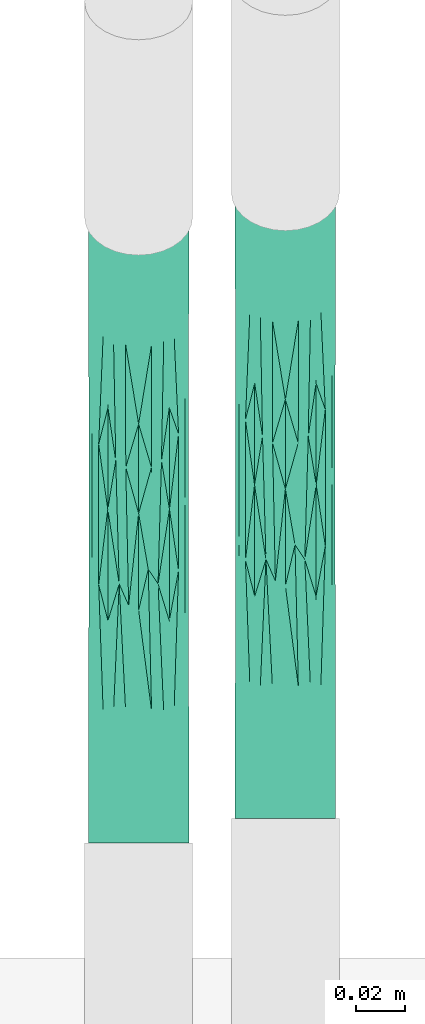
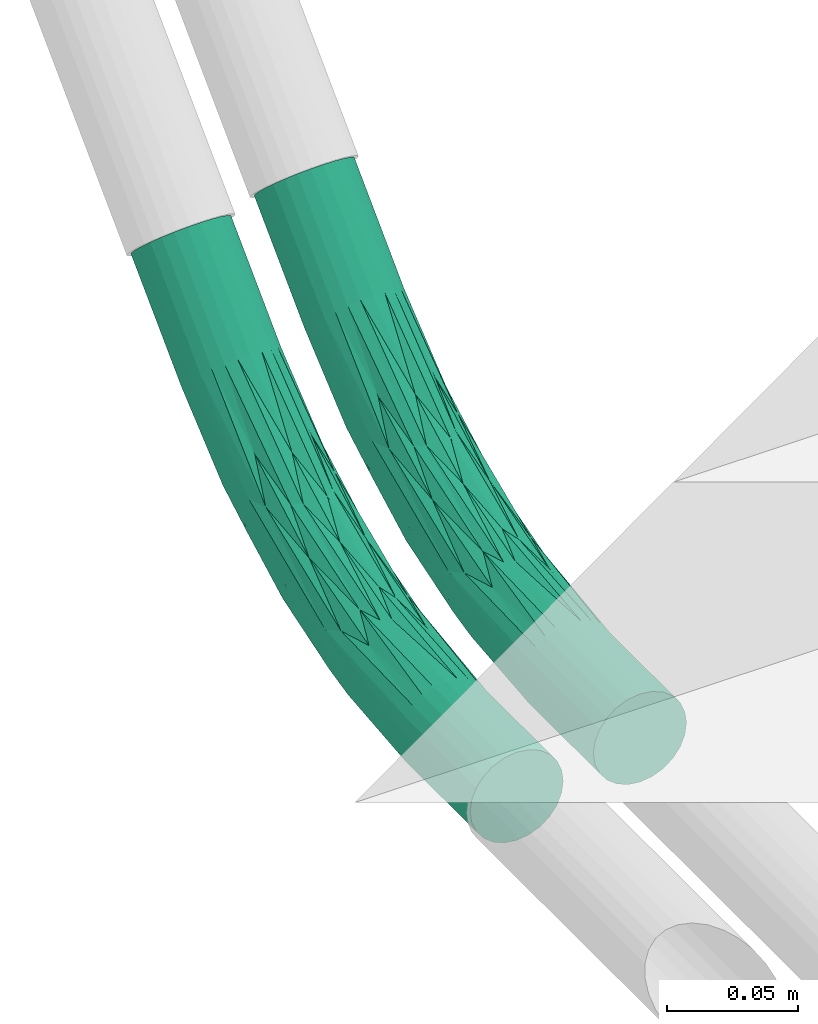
# One storey, part 17 of 18: 2 cable carrier fittings.
"""IFC4 building model written with IfcOpenShell, lengths in centimetres."""

from ifc_helpers import new_model, entity, si_unit, converted_unit, derived_unit, direction, frame, origin, place, context, subcontext, project, spatial, polygons, source, transform, mapped, material, type_object, type_shapes, element, save


model = new_model("IFC4")

# Units and contexts
model_context = context("Model", 3, precision=0.001, world=origin(), true_north=direction((6.123233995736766e-17, 1.0)))
body_context = subcontext(model_context, "Body", "Model", "MODEL_VIEW")
ifc_project = project(units=[si_unit("LENGTHUNIT", "METRE", prefix="CENTI"), si_unit("AREAUNIT", "SQUARE_METRE"), converted_unit("PLANEANGLEUNIT", "DEGREE", entity("IfcPlaneAngleMeasure", 0.017453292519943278), si_unit("PLANEANGLEUNIT", "RADIAN"), dimensions=[0, 0, 0, 0, 0, 0, 0]), si_unit("VOLUMEUNIT", "CUBIC_METRE"), derived_unit("THERMALTRANSMITTANCEUNIT", [(si_unit("MASSUNIT", "GRAM", prefix="KILO"), 1), (si_unit("THERMODYNAMICTEMPERATUREUNIT", "KELVIN"), -1), (si_unit("TIMEUNIT", "SECOND"), -3)])], contexts=[model_context])

# Site, building, storey
site_placement = place(None, frame((-0.003347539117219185, 0.0, 0.0)))
site = spatial("IfcSite", under=ifc_project, at=site_placement, Name="Default", CompositionType="ELEMENT")
building_placement = place(site_placement, origin())
building = spatial("IfcBuilding", under=site, at=building_placement, CompositionType="ELEMENT")
storey_placement = place(building_placement, frame((0.0, 0.0, -30.0)))
storey = spatial("IfcBuildingStorey", under=building, at=storey_placement, Name="Fondation B.O.", CompositionType="ELEMENT", Elevation=-30.0)

# Cable carrier fittings
ifc_material = material(Name="<Unnamed>")
cable_carrier_fitting_type_1 = type_object("IfcCableCarrierFittingType", Name="Courbure de conduit en plastique rigide - Sans raccords:Raccord TPC BT", PredefinedType="NOTDEFINED", material=ifc_material)
shared_shape_1 = source(origin(), body_context, "Body", "Tessellation", [
    polygons([(-14.986537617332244, -2.0500000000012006, -1.936944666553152e-13), (-14.986537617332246, -1.9801479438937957, 0.5305790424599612), (-14.98653761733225, -1.7753520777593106, 1.0249999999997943), (-14.986537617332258, -1.4495689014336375, 1.4495689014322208), (-14.986537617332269, -1.0250000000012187, 1.7753520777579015), (-14.986537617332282, -0.5305790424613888, 1.9801479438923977), (-14.986537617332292, -1.2225922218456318e-12, 2.0499999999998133), (-14.986537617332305, 0.5305790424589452, 1.980147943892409), (-14.986537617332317, 1.0249999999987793, 1.7753520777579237), (-14.986537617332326, 1.449568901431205, 1.4495689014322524), (-14.986537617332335, 1.7753520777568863, 1.0249999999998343), (-14.98653761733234, 1.980147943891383, 0.5305790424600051), (-14.986537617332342, 2.0499999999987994, -1.7382326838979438e-13), (-14.98653761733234, 1.9801479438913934, -0.5305790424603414), (-14.986537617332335, 1.775352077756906, -1.0250000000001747), (-14.986537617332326, 1.4495689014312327, -1.449568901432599), (-14.986537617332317, 1.0249999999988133, -1.7753520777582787), (-14.986537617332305, 0.530579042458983, -1.980147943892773), (-14.986537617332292, -1.1851726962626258e-12, -2.0500000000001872), (-14.986537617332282, -0.5305790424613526, -1.9801479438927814), (-14.986537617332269, -1.0250000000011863, -1.7753520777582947), (-14.986537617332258, -1.449568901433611, -1.4495689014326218), (-14.98653761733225, -1.775352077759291, -1.0250000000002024), (-14.986537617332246, -1.980147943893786, -0.5305790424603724), (-9.59553761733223, -2.050000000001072, -1.936944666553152e-13), (-9.59553761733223, -1.9801479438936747, 0.5305790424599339), (-9.59553761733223, -1.775352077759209, 1.0249999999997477), (-9.595537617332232, -1.4495689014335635, 1.4495689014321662), (-9.595537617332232, -1.0250000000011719, 1.7753520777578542), (-9.595537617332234, -0.5305790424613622, 1.9801479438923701), (-9.595537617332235, -1.203268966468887e-12, 2.0499999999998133), (-9.595537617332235, 0.53057904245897, 1.980147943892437), (-9.595537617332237, 1.0249999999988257, 1.7753520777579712), (-9.595537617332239, 1.449568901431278, 1.4495689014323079), (-9.595537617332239, 1.7753520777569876, 1.0249999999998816), (-9.595537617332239, 1.9801479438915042, 0.5305790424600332), (-9.595537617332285, 2.0499999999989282, -1.610779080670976e-13), (-9.595537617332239, 1.9801479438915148, -0.5305790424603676), (-9.595537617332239, 1.7753520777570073, -1.0250000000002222), (-9.595537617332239, 1.4495689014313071, -1.449568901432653), (-9.595537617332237, 1.0249999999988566, -1.7753520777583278), (-9.595537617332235, 0.5305790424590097, -1.9801479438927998), (-9.595537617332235, -1.1640286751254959e-12, -2.0500000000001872), (-9.595537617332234, -0.5305790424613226, -1.9801479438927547), (-9.595537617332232, -1.0250000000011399, -1.7753520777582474), (-9.595537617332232, -1.4495689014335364, -1.4495689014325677), (-9.59553761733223, -1.7753520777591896, -1.0250000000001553), (-9.59553761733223, -1.9801479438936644, -0.5305790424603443), (5.335330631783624, 8.2347488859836, -1.7564403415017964e-13), (2.1355999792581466, 5.608700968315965, -1.7564403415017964e-13), (-1.514975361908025, 3.657367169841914, -1.7564403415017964e-13), (-5.476098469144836, 2.4557400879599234, -1.7564403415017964e-13), (-4.67620737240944, -1.5654754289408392, -1.9278408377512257e-13), (0.0540658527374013, -0.13052270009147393, -1.9278408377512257e-13), (4.41349077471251, 2.199710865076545, -1.9278408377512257e-13), (8.234528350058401, 5.335670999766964, -1.9278408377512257e-13), (8.185134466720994, 5.385062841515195, 0.5305790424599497), (8.040318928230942, 5.529872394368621, 1.0249999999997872), (7.809950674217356, 5.760231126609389, 1.4495689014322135), (7.509728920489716, 6.060440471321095, 1.7753520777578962), (7.160113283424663, 6.410041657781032, 1.9801479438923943), (6.7849294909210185, 6.785209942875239, 2.049999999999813), (6.40974569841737, 7.16037822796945, 1.980147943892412), (6.0601300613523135, 7.509979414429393, 1.7753520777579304), (5.759908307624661, 7.810188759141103, 1.449568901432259), (5.529540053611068, 8.040547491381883, 1.0249999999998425), (5.3847245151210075, 8.185357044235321, 0.5305790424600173), (-0.10371504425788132, 0.25038294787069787, 1.2330488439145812), (-0.4238068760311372, 1.0231304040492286, 1.886911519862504), (-0.8261433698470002, 1.9944282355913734, 2.034694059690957), (-1.3489004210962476, 3.2564385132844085, 1.2613196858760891), (-3.414750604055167, 2.9032369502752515, 0.5255514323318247), (-2.339145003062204, -0.8887273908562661, 0.602602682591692), (-3.426581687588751, -0.4655054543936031, 1.619037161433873), (1.503781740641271, 3.718103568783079, 1.898448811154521), (-3.59169656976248, 0.5024922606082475, 2.0308839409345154), (2.864167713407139, 2.1601702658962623, 1.6191910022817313), (-3.8519500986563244, 2.004392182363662, 1.6333953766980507), (3.4450776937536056, 1.761427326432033, 0.7738466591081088), (2.4215721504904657, 3.0354327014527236, 2.030957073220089), (1.3193652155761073, 4.903197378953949, 0.79414032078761), (1.8206017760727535, 4.44628593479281, 1.6326750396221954), (-4.414213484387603, 1.3826818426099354, 1.8978916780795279), (2.295717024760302, 0.9688995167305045, 0.37331027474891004), (-5.237361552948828, -1.2454931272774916, 1.2412667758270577), (-5.234577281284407, -1.4605538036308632, 0.8962206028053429), (4.584012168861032, 2.8227719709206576, 1.2412667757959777), (-5.412151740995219, -0.4239301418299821, 1.890825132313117), (4.126660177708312, 3.5272906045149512, 1.8908251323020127), (-5.624231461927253, 0.6067003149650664, 2.033470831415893), (3.5478392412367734, 4.406007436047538, 2.0334708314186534), (-5.905254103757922, 1.9402784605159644, 1.253825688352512), (-3.582910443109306, 2.6891211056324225, 0.9345526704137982), (2.803546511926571, 5.547687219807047, 1.2538256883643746), (1.9965837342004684, 5.46748335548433, 0.4082981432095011), (5.384724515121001, 8.185357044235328, -0.5305790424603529), (5.529540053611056, 8.040547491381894, -1.0250000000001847), (5.759908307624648, 7.81018875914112, -1.4495689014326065), (6.060130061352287, 7.50997941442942, -1.775352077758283), (6.4097456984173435, 7.160378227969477, -1.9801479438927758), (6.784929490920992, 6.785209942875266, -2.0500000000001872), (7.160113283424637, 6.410041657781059, -1.9801479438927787), (7.509728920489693, 6.0604404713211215, -1.7753520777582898), (7.809950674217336, 5.760231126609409, -1.4495689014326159), (8.040318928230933, 5.529872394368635, -1.025000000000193), (8.18513446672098, 5.385062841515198, -0.5305790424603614), (-0.2472811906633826, 0.5969721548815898, -1.6150657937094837), (-0.6212504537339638, 1.4997874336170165, -2.0300421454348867), (-1.0245089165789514, 2.473311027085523, -1.9005499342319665), (-1.3489004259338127, 3.256438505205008, -1.2613196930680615), (-3.414750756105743, 2.9032369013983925, -0.5255514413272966), (-1.1719998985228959, -0.4424136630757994, -0.7691617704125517), (2.9785027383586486, 1.7904933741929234, -1.238342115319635), (2.4819518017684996, 2.4710457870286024, -1.8893602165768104), (1.8771259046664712, 3.3356416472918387, -2.033961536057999), (2.2936574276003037, 0.9803988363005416, -0.4289769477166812), (1.3063351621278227, 4.141086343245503, -1.6333953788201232), (-3.6844912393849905, -0.9185419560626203, -1.2388357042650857), (-3.6989481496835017, -0.05822916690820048, -1.8895126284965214), (-4.023174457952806, 0.9446686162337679, -2.0338760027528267), (-4.331181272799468, 1.8809161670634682, -1.6327993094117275), (1.3193652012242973, 4.90319736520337, -0.7941403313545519), (-2.3079634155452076, -0.9388644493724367, -0.36940739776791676), (3.46198577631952, 1.8088517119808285, -0.8473969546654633), (-5.337478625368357, -1.5793512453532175, -0.6535069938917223), (-5.317205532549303, -0.8768137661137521, -1.621320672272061), (4.379768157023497, 3.1399216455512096, -1.6213206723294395), (-5.516563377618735, 0.08212995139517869, -2.0314037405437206), (3.8426429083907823, 3.958953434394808, -2.031403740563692), (-5.728809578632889, 1.1138381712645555, -1.8968851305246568), (3.263177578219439, 4.838550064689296, -1.8968851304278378), (-5.9052541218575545, 1.9402784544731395, -1.2538256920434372), (-3.582910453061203, 2.6891210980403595, -0.9345526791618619), (2.8035465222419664, 5.547687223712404, -1.2538256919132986), (0.6936257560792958, 4.6827994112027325, -0.3939951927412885), (12.046462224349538, 9.147762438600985, -1.9278408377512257e-13), (11.99706834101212, 9.197154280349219, -0.5305790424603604), (11.852252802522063, 9.341963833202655, -1.0250000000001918), (11.621884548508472, 9.572322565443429, -1.449568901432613), (11.321662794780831, 9.87253191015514, -1.7753520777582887), (10.972047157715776, 10.222133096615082, -1.9801479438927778), (10.59686336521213, 10.59730138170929, -2.0500000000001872), (10.221679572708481, 10.972469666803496, -1.9801479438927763), (9.872063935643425, 11.32207085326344, -1.7753520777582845), (9.571842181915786, 11.622280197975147, -1.4495689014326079), (9.341473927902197, 11.852638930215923, -1.0250000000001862), (9.196658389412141, 11.997448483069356, -0.530579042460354), (9.147264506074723, 12.046840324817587, -1.6289867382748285e-13), (9.196658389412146, 11.99744848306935, 0.5305790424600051), (9.341473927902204, 11.852638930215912, 1.0249999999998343), (9.5718421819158, 11.622280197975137, 1.4495689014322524), (9.87206393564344, 11.32207085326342, 1.7753520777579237), (10.221679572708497, 10.972469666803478, 1.980147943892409), (10.596863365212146, 10.59730138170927, 2.0499999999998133), (10.972047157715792, 10.222133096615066, 1.9801479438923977), (11.321662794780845, 9.872531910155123, 1.7753520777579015), (11.621884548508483, 9.572322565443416, 1.4495689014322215), (11.852252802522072, 9.341963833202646, 1.0249999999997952), (11.997068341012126, 9.197154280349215, 0.5305790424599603)], [[[19, 20, 21, 22, 23, 24, 1, 2, 3, 4, 5, 6, 7, 8, 9, 10, 11, 12, 13, 14, 15, 16, 17, 18]], [[2, 1, 25, 26]], [[27, 3, 2, 26]], [[5, 4, 28, 29]], [[27, 28, 4, 3]], [[6, 5, 29, 30]], [[30, 31, 7, 6]], [[9, 8, 32, 33]], [[34, 10, 9, 33]], [[12, 11, 35, 36]], [[34, 35, 11, 10]], [[13, 12, 36, 37]], [[32, 8, 7, 31]], [[14, 13, 37, 38]], [[39, 15, 14, 38]], [[17, 16, 40, 41]], [[39, 40, 16, 15]], [[18, 17, 41, 42]], [[42, 43, 19, 18]], [[21, 20, 44, 45]], [[46, 22, 21, 45]], [[24, 23, 47, 48]], [[46, 47, 23, 22]], [[1, 24, 48, 25]], [[44, 20, 19, 43]], [[60, 61, 89]], [[26, 53, 73]], [[62, 63, 91]], [[85, 28, 27]], [[53, 26, 25]], [[31, 30, 76]], [[29, 88, 30]], [[74, 69, 88]], [[93, 36, 35]], [[90, 32, 31]], [[70, 90, 76]], [[65, 66, 94]], [[75, 78, 83]], [[78, 34, 33]], [[54, 55, 84]], [[35, 34, 92]], [[85, 74, 28]], [[92, 93, 35]], [[71, 92, 78]], [[68, 85, 86]], [[72, 52, 36]], [[52, 72, 51]], [[29, 28, 74]], [[52, 37, 36]], [[26, 73, 86]], [[64, 65, 82]], [[70, 75, 83]], [[68, 87, 77]], [[73, 53, 54]], [[81, 66, 67]], [[60, 77, 59]], [[78, 75, 82]], [[73, 54, 84]], [[70, 76, 80]], [[79, 84, 57]], [[80, 61, 62]], [[94, 81, 71]], [[73, 79, 68]], [[69, 80, 76]], [[74, 77, 69]], [[93, 81, 72]], [[55, 56, 57]], [[82, 65, 94]], [[80, 62, 91]], [[69, 89, 80]], [[51, 72, 95]], [[58, 59, 87]], [[50, 95, 49]], [[88, 76, 30]], [[72, 81, 95]], [[82, 75, 64]], [[71, 78, 82]], [[68, 77, 74]], [[81, 67, 95]], [[83, 33, 32]], [[75, 70, 91]], [[75, 63, 64]], [[77, 60, 89]], [[79, 58, 87]], [[57, 58, 79]], [[83, 32, 90]], [[78, 33, 83]], [[57, 84, 55]], [[73, 84, 79]], [[86, 85, 27]], [[74, 85, 68]], [[26, 86, 27]], [[68, 86, 73]], [[77, 87, 59]], [[79, 87, 68]], [[74, 88, 29]], [[76, 88, 69]], [[80, 89, 61]], [[77, 89, 69]], [[76, 90, 31]], [[83, 90, 70]], [[75, 91, 63]], [[80, 91, 70]], [[78, 92, 34]], [[93, 92, 71]], [[81, 93, 71]], [[93, 72, 36]], [[81, 94, 66]], [[82, 94, 71]], [[49, 95, 67]], [[95, 50, 51]], [[130, 42, 41]], [[113, 118, 107]], [[44, 43, 128]], [[107, 119, 114]], [[41, 40, 121]], [[119, 44, 128]], [[37, 52, 38]], [[51, 50, 135]], [[52, 111, 38]], [[100, 101, 115]], [[39, 132, 40]], [[133, 110, 132]], [[126, 118, 46]], [[43, 42, 120]], [[112, 123, 125]], [[109, 121, 117]], [[53, 25, 48]], [[133, 122, 110]], [[53, 123, 54]], [[134, 122, 97]], [[126, 46, 45]], [[108, 120, 115]], [[111, 133, 38]], [[53, 125, 123]], [[44, 119, 45]], [[118, 112, 125]], [[121, 40, 132]], [[108, 114, 119]], [[111, 52, 51]], [[120, 42, 130]], [[50, 49, 96]], [[113, 104, 105]], [[135, 122, 111]], [[96, 122, 135]], [[102, 103, 114]], [[110, 117, 121]], [[117, 110, 134]], [[98, 99, 117]], [[99, 100, 131]], [[112, 113, 124]], [[106, 55, 116]], [[98, 134, 97]], [[131, 117, 99]], [[131, 115, 109]], [[108, 129, 114]], [[129, 115, 101]], [[113, 107, 127]], [[103, 104, 127]], [[107, 126, 119]], [[101, 102, 129]], [[123, 116, 54]], [[118, 113, 112]], [[56, 55, 106]], [[124, 106, 116]], [[112, 124, 116]], [[54, 116, 55]], [[127, 114, 103]], [[109, 115, 120]], [[108, 128, 120]], [[97, 122, 96]], [[109, 130, 121]], [[47, 46, 118]], [[125, 53, 48]], [[116, 123, 112]], [[113, 105, 124]], [[106, 124, 105]], [[48, 47, 125]], [[118, 125, 47]], [[119, 126, 45]], [[118, 126, 107]], [[113, 127, 104]], [[114, 127, 107]], [[120, 128, 43]], [[119, 128, 108]], [[114, 129, 102]], [[115, 129, 108]], [[121, 130, 41]], [[120, 130, 109]], [[115, 131, 100]], [[117, 131, 109]], [[39, 38, 133]], [[121, 132, 110]], [[39, 133, 132]], [[122, 133, 111]], [[117, 134, 98]], [[122, 134, 110]], [[51, 135, 111]], [[96, 135, 50]], [[143, 144, 145, 146, 147, 148, 149, 150, 151, 152, 153, 154, 155, 156, 157, 158, 159, 136, 137, 138, 139, 140, 141, 142]], [[57, 56, 136, 159]], [[158, 58, 57, 159]], [[60, 59, 157, 156]], [[158, 157, 59, 58]], [[61, 60, 156, 155]], [[155, 154, 62, 61]], [[64, 63, 153, 152]], [[151, 65, 64, 152]], [[67, 66, 150, 149]], [[151, 150, 66, 65]], [[49, 67, 149, 148]], [[153, 63, 62, 154]], [[49, 148, 147, 96]], [[146, 97, 96, 147]], [[144, 143, 100, 99]], [[145, 144, 99, 98]], [[98, 97, 146, 145]], [[143, 142, 101, 100]], [[103, 102, 141, 140]], [[139, 104, 103, 140]], [[106, 105, 138, 137]], [[139, 138, 105, 104]], [[56, 106, 137, 136]], [[141, 102, 101, 142]]], closed=True),
])
type_shapes(cable_carrier_fitting_type_1, [shared_shape_1])
cable_carrier_fitting_1_placement = place(storey_placement, frame((-5729.099445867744, -2618.1904316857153, -41.00309498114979), z_axis=(-1.0, 0.0, 0.0), x_axis=(0.0, -0.7071067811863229, -0.7071067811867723)))
element("IfcCableCarrierFitting", 1, at=cable_carrier_fitting_1_placement, inside=storey, type_object=cable_carrier_fitting_type_1, material=ifc_material, Name="Courbure de conduit en plastique rigide - Sans raccords:Raccord TPC BT", ObjectType="Courbure de conduit en plastique rigide - Sans raccords:Raccord TPC BT", PredefinedType="NOTDEFINED", context=body_context, shape_type="MappedRepresentation", body=[
    mapped(shared_shape_1, transform((0.0, 0.0, 0.0), scale=1.0)),
])
cable_carrier_fitting_type_2 = type_object("IfcCableCarrierFittingType", Name="Courbure de conduit en plastique rigide - Sans raccords:Raccord TPC BT", PredefinedType="NOTDEFINED", material=ifc_material)
shared_shape_2 = source(origin(), body_context, "Body", "Tessellation", [
    polygons([(-14.986531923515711, -2.0500000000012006, -1.936944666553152e-13), (-14.986531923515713, -1.9801479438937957, 0.5305790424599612), (-14.986531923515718, -1.7753520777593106, 1.0249999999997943), (-14.986531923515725, -1.4495689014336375, 1.4495689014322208), (-14.986531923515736, -1.0250000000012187, 1.7753520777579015), (-14.986531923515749, -0.5305790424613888, 1.9801479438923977), (-14.98653192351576, -1.222592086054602e-12, 2.0499999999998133), (-14.986531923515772, 0.5305790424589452, 1.980147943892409), (-14.986531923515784, 1.0249999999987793, 1.7753520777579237), (-14.986531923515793, 1.449568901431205, 1.4495689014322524), (-14.986531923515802, 1.7753520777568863, 1.0249999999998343), (-14.986531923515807, 1.980147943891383, 0.5305790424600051), (-14.986531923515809, 2.0499999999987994, -1.7382326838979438e-13), (-14.986531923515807, 1.9801479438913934, -0.5305790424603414), (-14.986531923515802, 1.775352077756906, -1.0250000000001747), (-14.986531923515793, 1.4495689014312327, -1.449568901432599), (-14.986531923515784, 1.0249999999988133, -1.7753520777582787), (-14.986531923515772, 0.530579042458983, -1.980147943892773), (-14.98653192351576, -1.1851725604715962e-12, -2.0500000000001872), (-14.986531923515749, -0.5305790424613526, -1.9801479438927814), (-14.986531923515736, -1.0250000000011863, -1.7753520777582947), (-14.986531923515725, -1.449568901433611, -1.4495689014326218), (-14.986531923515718, -1.775352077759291, -1.0250000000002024), (-14.986531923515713, -1.980147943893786, -0.5305790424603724), (-9.595531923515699, -2.050000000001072, -1.936944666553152e-13), (-9.595531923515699, -1.9801479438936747, 0.5305790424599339), (-9.595531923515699, -1.775352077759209, 1.0249999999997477), (-9.5955319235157, -1.4495689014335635, 1.4495689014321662), (-9.5955319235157, -1.0250000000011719, 1.7753520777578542), (-9.595531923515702, -0.5305790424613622, 1.9801479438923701), (-9.595531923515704, -1.2032688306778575e-12, 2.0499999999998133), (-9.595531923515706, 0.53057904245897, 1.980147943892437), (-9.595531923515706, 1.0249999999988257, 1.7753520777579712), (-9.595531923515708, 1.449568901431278, 1.4495689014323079), (-9.595531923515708, 1.7753520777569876, 1.0249999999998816), (-9.595531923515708, 1.9801479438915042, 0.5305790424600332), (-9.595531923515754, 2.0499999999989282, -1.5925714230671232e-13), (-9.595531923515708, 1.9801479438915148, -0.5305790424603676), (-9.595531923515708, 1.7753520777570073, -1.0250000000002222), (-9.595531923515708, 1.4495689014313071, -1.449568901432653), (-9.595531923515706, 1.0249999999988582, -1.775352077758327), (-9.595531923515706, 0.5305790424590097, -1.9801479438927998), (-9.595531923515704, -1.1640285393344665e-12, -2.0500000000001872), (-9.595531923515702, -0.5305790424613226, -1.9801479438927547), (-9.5955319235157, -1.0250000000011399, -1.7753520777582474), (-9.5955319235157, -1.4495689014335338, -1.4495689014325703), (-9.595531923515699, -1.7753520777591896, -1.0250000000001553), (-9.595531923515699, -1.9801479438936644, -0.5305790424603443), (5.335330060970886, 8.234742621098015, -1.7564403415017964e-13), (2.1356001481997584, 5.608697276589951, -1.7564403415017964e-13), (-1.5149737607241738, 3.6573654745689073, -1.7564403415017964e-13), (-5.476094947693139, 2.455739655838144, -1.7564403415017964e-13), (-4.676204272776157, -1.5654759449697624, -1.9278408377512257e-13), (0.054066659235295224, -0.13052472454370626, -1.9278408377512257e-13), (4.413489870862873, 2.1997064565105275, -1.9278408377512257e-13), (8.234526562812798, 5.33566351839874, -1.9278408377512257e-13), (8.18513270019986, 5.38505538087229, 0.530579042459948), (8.04031722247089, 5.529864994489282, 1.0249999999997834), (7.80994906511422, 5.760223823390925, 1.4495689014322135), (7.509727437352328, 6.060433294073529, 1.7753520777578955), (7.160111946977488, 6.410034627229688, 1.980147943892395), (6.784928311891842, 6.785203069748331, 2.049999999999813), (6.409744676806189, 7.1603715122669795, 1.98014794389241), (6.060129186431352, 7.509972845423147, 1.7753520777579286), (5.759907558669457, 7.810182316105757, 1.4495689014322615), (5.529539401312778, 8.040541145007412, 1.0249999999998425), (5.384723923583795, 8.185350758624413, 0.5305790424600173), (-0.10371416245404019, 0.2503809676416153, 1.2330488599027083), (-0.4238058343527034, 1.0231284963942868, 1.8869115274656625), (-0.8261421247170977, 1.994426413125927, 2.034694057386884), (-1.3488989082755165, 3.2564367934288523, 1.2613196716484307), (-3.4147481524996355, 2.9032360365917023, 0.5255511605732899), (-2.339143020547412, -0.8887286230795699, 0.6026023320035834), (-3.4265776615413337, -0.4655058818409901, 1.6190371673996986), (1.5037806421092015, 3.7180997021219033, 1.8984488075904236), (-3.591692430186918, 0.5024918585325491, 2.03088394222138), (2.8641684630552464, 2.1601673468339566, 1.6191910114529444), (-3.8519457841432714, 2.0043918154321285, 1.633395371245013), (3.4450766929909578, 1.7614232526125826, 0.7738466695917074), (2.421573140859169, 3.0354299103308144, 2.0309570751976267), (1.319364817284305, 4.903193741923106, 0.7941403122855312), (1.820599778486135, 4.446281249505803, 1.632675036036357), (-4.414207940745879, 1.3826818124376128, 1.8978916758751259), (2.295716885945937, 0.9688963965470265, 0.3733102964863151), (-5.237358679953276, -1.24549362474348, 1.2412667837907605), (-5.23457131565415, -1.4605537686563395, 0.8962205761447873), (4.58401167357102, 2.822767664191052, 1.241266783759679), (-5.412148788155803, -0.4239306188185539, 1.890825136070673), (4.126659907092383, 3.527286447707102, 1.8908251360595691), (-5.624228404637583, 0.6066998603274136, 2.033470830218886), (3.547839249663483, 4.406003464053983, 2.033470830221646), (-5.905250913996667, 1.9402780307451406, 1.2538256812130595), (-3.5829081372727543, 2.6891201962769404, 0.9345525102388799), (2.80354688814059, 5.547683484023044, 1.2538256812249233), (1.99658219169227, 5.467478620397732, 0.40829812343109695), (5.384723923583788, 8.18535075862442, -0.5305790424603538), (5.529539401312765, 8.04054114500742, -1.0250000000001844), (5.75990755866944, 7.810182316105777, -1.4495689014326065), (6.060129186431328, 7.50997284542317, -1.775352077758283), (6.409744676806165, 7.1603715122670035, -1.9801479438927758), (6.784928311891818, 6.785203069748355, -2.0500000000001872), (7.160111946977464, 6.410034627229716, -1.9801479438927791), (7.509727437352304, 6.060433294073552, -1.7753520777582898), (7.8099490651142, 5.760223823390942, -1.4495689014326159), (8.040317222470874, 5.529864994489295, -1.025000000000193), (8.185132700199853, 5.385055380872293, -0.5305790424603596), (-0.2472802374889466, 0.5969702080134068, -1.6150658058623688), (-0.6212493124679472, 1.4997855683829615, -2.030042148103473), (-1.0245075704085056, 2.473309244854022, -1.9005499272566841), (-1.348898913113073, 3.2564367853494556, -1.2613196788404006), (-3.4147483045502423, 2.903235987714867, -0.5255511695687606), (-1.1719947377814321, -0.44241384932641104, -0.769161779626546), (2.9785009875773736, 1.7904890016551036, -1.2383421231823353), (2.481950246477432, 2.471041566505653, -1.889360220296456), (1.8771246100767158, 3.335637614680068, -2.0339615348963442), (2.2936572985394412, 0.9803956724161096, -0.42897676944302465), (1.306334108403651, 4.141082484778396, -1.6333953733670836), (-3.6844857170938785, -0.9185419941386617, -1.2388357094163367), (-3.6989467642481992, -0.0582302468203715, -1.889512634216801), (-4.023172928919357, 0.9446675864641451, -2.0338760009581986), (-4.331179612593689, 1.8809151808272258, -1.6327993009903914), (1.3193648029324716, 4.903193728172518, -0.794140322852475), (-2.3079615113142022, -0.9388655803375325, -0.36940747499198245), (3.4619937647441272, 1.8088530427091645, -0.8473968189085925), (-5.337474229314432, -1.57935138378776, -0.6535072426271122), (-5.3172026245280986, -0.8768142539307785, -1.6213206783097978), (4.379767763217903, 3.1399174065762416, -1.6213206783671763), (-5.5165603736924, 0.08212948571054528, -2.0314037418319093), (3.842642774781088, 3.9589493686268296, -2.0314037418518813), (-5.728806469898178, 1.1138377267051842, -1.8968851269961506), (3.26317772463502, 4.8385461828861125, -1.8968851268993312), (-5.905250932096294, 1.9402780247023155, -1.253825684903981), (-3.5829081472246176, 2.689120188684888, -0.9345525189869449), (2.8035468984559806, 5.547683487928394, -1.253825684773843), (0.6936286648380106, 4.682797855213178, -0.39399521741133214), (12.04646203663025, 9.14775335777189, -1.9278408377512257e-13), (11.997068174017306, 9.197145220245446, -0.5305790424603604), (11.852252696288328, 9.341954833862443, -1.0250000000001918), (11.621884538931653, 9.57231366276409, -1.449568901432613), (11.321662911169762, 9.872523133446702, -1.7753520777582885), (10.972047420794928, 10.222124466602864, -1.9801479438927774), (10.596863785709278, 10.597292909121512, -2.0500000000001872), (10.221680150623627, 10.972461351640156, -1.9801479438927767), (9.87206466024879, 11.32206268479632, -1.7753520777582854), (9.571843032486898, 11.622272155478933, -1.4495689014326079), (9.341474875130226, 11.852630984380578, -1.0250000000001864), (9.196659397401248, 11.997440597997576, -0.5305790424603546), (9.147265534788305, 12.046832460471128, -1.6289867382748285e-13), (9.196659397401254, 11.997440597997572, 0.5305790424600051), (9.341474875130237, 11.852630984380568, 1.0249999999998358), (9.571843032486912, 11.62227215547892, 1.4495689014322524), (9.872064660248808, 11.322062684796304, 1.7753520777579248), (10.221680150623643, 10.972461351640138, 1.980147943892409), (10.596863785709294, 10.597292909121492, 2.0499999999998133), (10.972047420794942, 10.22212446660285, 1.9801479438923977), (11.321662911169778, 9.872523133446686, 1.7753520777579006), (11.621884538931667, 9.572313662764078, 1.4495689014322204), (11.852252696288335, 9.341954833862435, 1.0249999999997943), (11.997068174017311, 9.197145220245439, 0.5305790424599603)], [[[19, 20, 21, 22, 23, 24, 1, 2, 3, 4, 5, 6, 7, 8, 9, 10, 11, 12, 13, 14, 15, 16, 17, 18]], [[2, 1, 25, 26]], [[27, 3, 2, 26]], [[5, 4, 28, 29]], [[27, 28, 4, 3]], [[6, 5, 29, 30]], [[30, 31, 7, 6]], [[9, 8, 32, 33]], [[34, 10, 9, 33]], [[12, 11, 35, 36]], [[34, 35, 11, 10]], [[13, 12, 36, 37]], [[32, 8, 7, 31]], [[14, 13, 37, 38]], [[39, 15, 14, 38]], [[17, 16, 40, 41]], [[39, 40, 16, 15]], [[18, 17, 41, 42]], [[42, 43, 19, 18]], [[21, 20, 44, 45]], [[46, 22, 21, 45]], [[24, 23, 47, 48]], [[46, 47, 23, 22]], [[1, 24, 48, 25]], [[44, 20, 19, 43]], [[60, 61, 89]], [[26, 53, 73]], [[62, 63, 91]], [[85, 28, 27]], [[53, 26, 25]], [[31, 30, 76]], [[29, 88, 30]], [[74, 69, 88]], [[93, 36, 35]], [[90, 32, 31]], [[70, 90, 76]], [[65, 66, 94]], [[75, 78, 83]], [[78, 34, 33]], [[54, 55, 84]], [[35, 34, 92]], [[85, 74, 28]], [[92, 93, 35]], [[71, 92, 78]], [[68, 85, 86]], [[72, 52, 36]], [[52, 72, 51]], [[29, 28, 74]], [[52, 37, 36]], [[26, 73, 86]], [[64, 65, 82]], [[70, 75, 83]], [[68, 87, 77]], [[73, 53, 54]], [[81, 66, 67]], [[60, 77, 59]], [[78, 75, 82]], [[73, 54, 84]], [[70, 76, 80]], [[79, 84, 57]], [[80, 61, 62]], [[94, 81, 71]], [[73, 79, 68]], [[69, 80, 76]], [[74, 77, 69]], [[93, 81, 72]], [[55, 56, 57]], [[82, 65, 94]], [[80, 62, 91]], [[69, 89, 80]], [[51, 72, 95]], [[58, 59, 87]], [[50, 95, 49]], [[88, 76, 30]], [[72, 81, 95]], [[82, 75, 64]], [[71, 78, 82]], [[68, 77, 74]], [[81, 67, 95]], [[83, 33, 32]], [[75, 70, 91]], [[75, 63, 64]], [[77, 60, 89]], [[79, 58, 87]], [[57, 58, 79]], [[83, 32, 90]], [[78, 33, 83]], [[57, 84, 55]], [[73, 84, 79]], [[86, 85, 27]], [[74, 85, 68]], [[26, 86, 27]], [[68, 86, 73]], [[77, 87, 59]], [[79, 87, 68]], [[74, 88, 29]], [[76, 88, 69]], [[80, 89, 61]], [[77, 89, 69]], [[76, 90, 31]], [[83, 90, 70]], [[75, 91, 63]], [[80, 91, 70]], [[78, 92, 34]], [[93, 92, 71]], [[81, 93, 71]], [[93, 72, 36]], [[81, 94, 66]], [[82, 94, 71]], [[49, 95, 67]], [[95, 50, 51]], [[130, 42, 41]], [[113, 118, 107]], [[44, 43, 128]], [[107, 119, 114]], [[41, 40, 121]], [[119, 44, 128]], [[37, 52, 38]], [[51, 50, 135]], [[52, 111, 38]], [[100, 101, 115]], [[39, 132, 40]], [[133, 110, 132]], [[126, 118, 46]], [[43, 42, 120]], [[112, 123, 125]], [[109, 121, 117]], [[53, 25, 48]], [[133, 122, 110]], [[53, 123, 54]], [[134, 122, 97]], [[126, 46, 45]], [[108, 120, 115]], [[111, 133, 38]], [[53, 125, 123]], [[44, 119, 45]], [[118, 112, 125]], [[121, 40, 132]], [[108, 114, 119]], [[111, 52, 51]], [[120, 42, 130]], [[50, 49, 96]], [[113, 104, 105]], [[135, 122, 111]], [[96, 122, 135]], [[102, 103, 114]], [[110, 117, 121]], [[117, 110, 134]], [[98, 99, 117]], [[99, 100, 131]], [[112, 113, 124]], [[106, 55, 116]], [[98, 134, 97]], [[131, 117, 99]], [[131, 115, 109]], [[108, 129, 114]], [[129, 115, 101]], [[113, 107, 127]], [[103, 104, 127]], [[107, 126, 119]], [[101, 102, 129]], [[123, 116, 54]], [[118, 113, 112]], [[56, 55, 106]], [[124, 106, 116]], [[112, 124, 116]], [[54, 116, 55]], [[127, 114, 103]], [[109, 115, 120]], [[108, 128, 120]], [[97, 122, 96]], [[109, 130, 121]], [[47, 46, 118]], [[125, 53, 48]], [[116, 123, 112]], [[113, 105, 124]], [[106, 124, 105]], [[48, 47, 125]], [[118, 125, 47]], [[119, 126, 45]], [[118, 126, 107]], [[113, 127, 104]], [[114, 127, 107]], [[120, 128, 43]], [[119, 128, 108]], [[114, 129, 102]], [[115, 129, 108]], [[121, 130, 41]], [[120, 130, 109]], [[115, 131, 100]], [[117, 131, 109]], [[39, 38, 133]], [[121, 132, 110]], [[39, 133, 132]], [[122, 133, 111]], [[117, 134, 98]], [[122, 134, 110]], [[51, 135, 111]], [[96, 135, 50]], [[142, 143, 144, 145, 146, 147, 148, 149, 150, 151, 152, 153, 154, 155, 156, 157, 158, 159, 136, 137, 138, 139, 140, 141]], [[57, 56, 136, 159]], [[158, 58, 57, 159]], [[60, 59, 157, 156]], [[158, 157, 59, 58]], [[61, 60, 156, 155]], [[155, 154, 62, 61]], [[64, 63, 153, 152]], [[151, 65, 64, 152]], [[67, 66, 150, 149]], [[151, 150, 66, 65]], [[49, 67, 149, 148]], [[153, 63, 62, 154]], [[49, 148, 147, 96]], [[146, 97, 96, 147]], [[144, 143, 100, 99]], [[145, 144, 99, 98]], [[98, 97, 146, 145]], [[143, 142, 101, 100]], [[103, 102, 141, 140]], [[139, 104, 103, 140]], [[106, 105, 138, 137]], [[139, 138, 105, 104]], [[56, 106, 137, 136]], [[141, 102, 101, 142]]], closed=True),
])
type_shapes(cable_carrier_fitting_type_2, [shared_shape_2])
cable_carrier_fitting_2_placement = place(storey_placement, frame((-5723.099445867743, -2617.190389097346, -41.00305239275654), z_axis=(-1.0, 0.0, 0.0), x_axis=(0.0, -0.7071067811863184, -0.7071067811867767)))
element("IfcCableCarrierFitting", 2, at=cable_carrier_fitting_2_placement, inside=storey, type_object=cable_carrier_fitting_type_2, material=ifc_material, Name="Courbure de conduit en plastique rigide - Sans raccords:Raccord TPC BT", ObjectType="Courbure de conduit en plastique rigide - Sans raccords:Raccord TPC BT", PredefinedType="NOTDEFINED", context=body_context, shape_type="MappedRepresentation", body=[
    mapped(shared_shape_2, transform((0.0, 0.0, 0.0), scale=1.0)),
])

save(model, "model.ifc")
